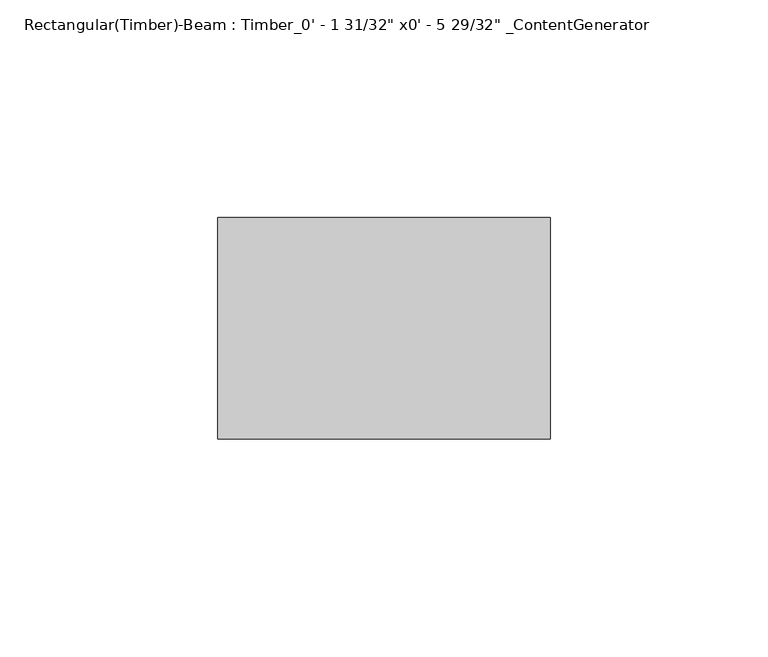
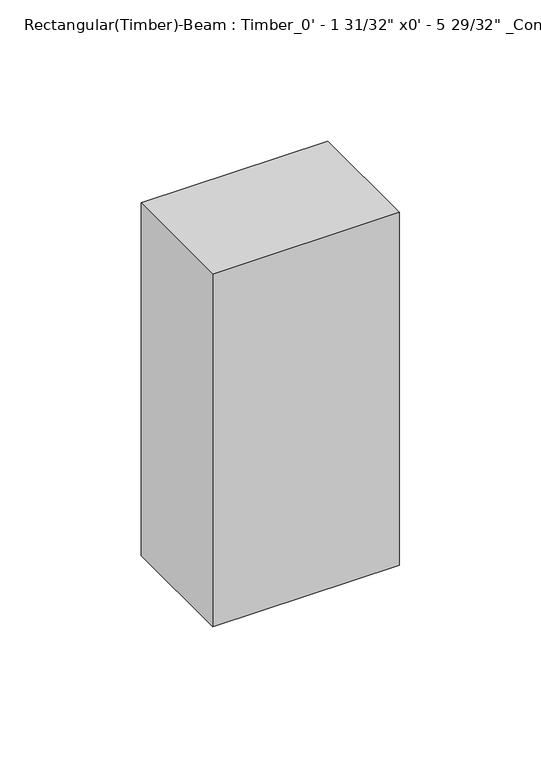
"""IFC4 building model written with IfcOpenShell, lengths in millimetres: beam geometry."""

from ifc_helpers import new_model, si_unit, frame, origin, place, context, project, spatial, polyline, outline, extrude, source, transform, mapped, element, save


def beam_8c6c62c1(model_context):
    return source(origin(), model_context, "Body", "SweptSolid", [
        extrude(outline(polyline([(38.1, 25.4), (38.1, -25.4), (-38.1, -25.4), (-38.1, 25.4), (38.1, 25.4)])), frame((0.0, 0.0, -76.2), z_axis=(0.0, 0.0, 1.0), x_axis=(1.0, 0.0, 0.0)), (0.0, 0.0, 1.0), 152.4),
    ])


if __name__ == "__main__":
    model = new_model("IFC4")
    model_context = context("Model", 3, world=origin())
    ifc_project = project(units=[si_unit("LENGTHUNIT", "METRE", prefix="MILLI")], contexts=[model_context])
    site = spatial("IfcSite", under=ifc_project)
    building = spatial("IfcBuilding", under=site)
    placement = place(None, origin())
    beam_shape = beam_8c6c62c1(model_context)
    element("IfcBeam", 1, ObjectType="Rectangular(Timber)-Beam : Timber_0' - 1 31/32\" x0' - 5 29/32\" _ContentGenerator", at=placement, inside=building, context=model_context, shape_type="MappedRepresentation", body=[
        mapped(beam_shape, transform((0.0, 0.0, 0.0), x_axis=(1.0, 0.0, 0.0), y_axis=(0.0, 1.0, 0.0), z_axis=(0.0, 0.0, 1.0))),
    ])
    save(model, "model.ifc")
